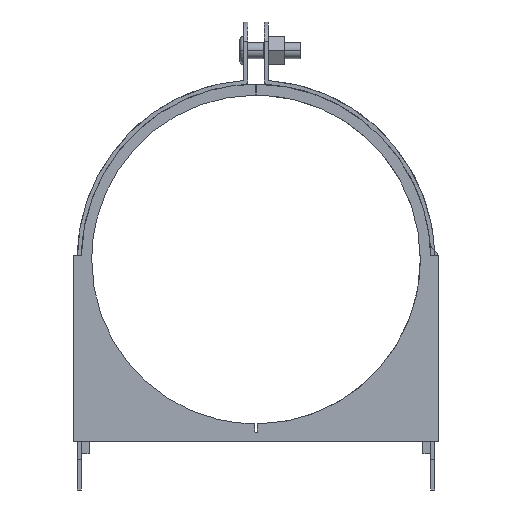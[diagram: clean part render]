
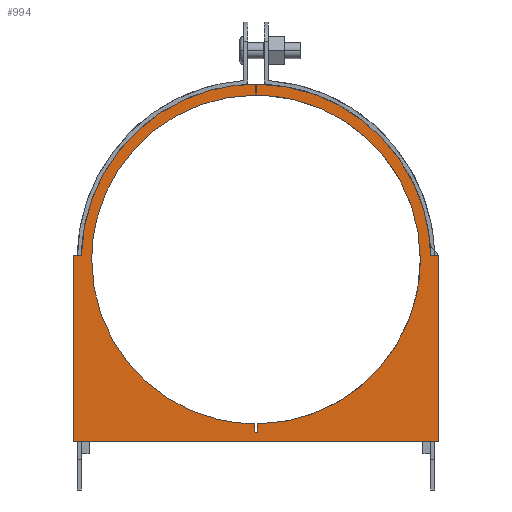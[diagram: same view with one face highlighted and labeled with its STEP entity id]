
A CAD part, front view. The second image highlights one B-rep face of the part: STEP entity #994.
In plain terms, the highlighted planar face has unit normal (0, -1, 0).
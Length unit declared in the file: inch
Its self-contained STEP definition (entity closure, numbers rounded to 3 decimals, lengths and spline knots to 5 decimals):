
#994=ADVANCED_FACE('',(#1929),#1930,.T.);
#1929=FACE_OUTER_BOUND('',#3800,.T.);
#1930=PLANE('',#3801);
#3800=EDGE_LOOP('',(#5203,#5204,#5205,#5206,#5207,#5208,#5209,#5210,#5211,#5212,#5213,#5214,#5215,#5216,#5217,#5218,#5219));
#3801=AXIS2_PLACEMENT_3D('',#5220,#5221,#5222);
#5203=ORIENTED_EDGE('',*,*,#5460,.F.);
#5204=ORIENTED_EDGE('',*,*,#5507,.F.);
#5205=ORIENTED_EDGE('',*,*,#5525,.F.);
#5206=ORIENTED_EDGE('',*,*,#5377,.F.);
#5207=ORIENTED_EDGE('',*,*,#5498,.F.);
#5208=ORIENTED_EDGE('',*,*,#5368,.F.);
#5209=ORIENTED_EDGE('',*,*,#5631,.F.);
#5210=ORIENTED_EDGE('',*,*,#5316,.F.);
#5211=ORIENTED_EDGE('',*,*,#5407,.F.);
#5212=ORIENTED_EDGE('',*,*,#5467,.F.);
#5213=ORIENTED_EDGE('',*,*,#5342,.F.);
#5214=ORIENTED_EDGE('',*,*,#5615,.F.);
#5215=ORIENTED_EDGE('',*,*,#5586,.F.);
#5216=ORIENTED_EDGE('',*,*,#5637,.F.);
#5217=ORIENTED_EDGE('',*,*,#5562,.F.);
#5218=ORIENTED_EDGE('',*,*,#5272,.F.);
#5219=ORIENTED_EDGE('',*,*,#5396,.F.);
#5220=CARTESIAN_POINT('',(2.78492,-0.125,3.33464));
#5221=DIRECTION('',(0.0,-1.0,0.0));
#5222=DIRECTION('',(1.0,0.0,0.0));
#5272=EDGE_CURVE('',#5673,#5675,#5676,.T.);
#5316=EDGE_CURVE('',#5746,#5747,#5748,.T.);
#5342=EDGE_CURVE('',#5787,#5788,#5789,.T.);
#5368=EDGE_CURVE('',#5827,#5828,#5829,.T.);
#5377=EDGE_CURVE('',#5842,#5843,#5844,.T.);
#5396=EDGE_CURVE('',#5870,#5673,#5871,.T.);
#5407=EDGE_CURVE('',#5885,#5746,#5886,.T.);
#5460=EDGE_CURVE('',#5965,#5870,#5966,.T.);
#5467=EDGE_CURVE('',#5788,#5885,#5974,.T.);
#5498=EDGE_CURVE('',#5828,#5842,#6012,.T.);
#5507=EDGE_CURVE('',#6025,#5965,#6026,.T.);
#5525=EDGE_CURVE('',#5843,#6025,#6048,.T.);
#5562=EDGE_CURVE('',#5675,#6091,#6092,.T.);
#5586=EDGE_CURVE('',#6118,#6119,#6120,.T.);
#5615=EDGE_CURVE('',#6119,#5787,#6149,.T.);
#5631=EDGE_CURVE('',#5747,#5827,#6165,.T.);
#5637=EDGE_CURVE('',#6091,#6118,#6171,.T.);
#5673=VERTEX_POINT('',#6220);
#5675=VERTEX_POINT('',#6223);
#5676=LINE('',#6224,#6225);
#5746=VERTEX_POINT('',#6354);
#5747=VERTEX_POINT('',#6355);
#5748=LINE('',#6356,#6357);
#5787=VERTEX_POINT('',#6442);
#5788=VERTEX_POINT('',#6443);
#5789=B_SPLINE_CURVE_WITH_KNOTS('',3,(#6444,#6445,#6446,#6447),.UNSPECIFIED.,.F.,.F.,(4,4),(0.0,1.0),.UNSPECIFIED.);
#5827=VERTEX_POINT('',#6518);
#5828=VERTEX_POINT('',#6519);
#5829=LINE('',#6520,#6521);
#5842=VERTEX_POINT('',#6540);
#5843=VERTEX_POINT('',#6541);
#5844=B_SPLINE_CURVE_WITH_KNOTS('',3,(#6542,#6543,#6544,#6545),.UNSPECIFIED.,.F.,.F.,(4,4),(0.0,1.0),.UNSPECIFIED.);
#5870=VERTEX_POINT('',#6589);
#5871=LINE('',#6590,#6591);
#5885=VERTEX_POINT('',#6623);
#5886=LINE('',#6624,#6625);
#5965=VERTEX_POINT('',#6773);
#5966=LINE('',#6774,#6775);
#5974=B_SPLINE_CURVE_WITH_KNOTS('',3,(#6785,#6786,#6787,#6788),.UNSPECIFIED.,.F.,.F.,(4,4),(0.0,1.0),.UNSPECIFIED.);
#6012=B_SPLINE_CURVE_WITH_KNOTS('',3,(#6911,#6912,#6913,#6914),.UNSPECIFIED.,.F.,.F.,(4,4),(0.0,1.0),.UNSPECIFIED.);
#6025=VERTEX_POINT('',#6941);
#6026=B_SPLINE_CURVE_WITH_KNOTS('',3,(#6942,#6943,#6944,#6945),.UNSPECIFIED.,.F.,.F.,(4,4),(0.0,1.0),.UNSPECIFIED.);
#6048=LINE('',#6991,#6992);
#6091=VERTEX_POINT('',#7060);
#6092=LINE('',#7061,#7062);
#6118=VERTEX_POINT('',#7099);
#6119=VERTEX_POINT('',#7100);
#6120=B_SPLINE_CURVE_WITH_KNOTS('',3,(#7101,#7102,#7103,#7104),.UNSPECIFIED.,.F.,.F.,(4,4),(0.0,1.0),.UNSPECIFIED.);
#6149=LINE('',#7154,#7155);
#6165=LINE('',#7173,#7174);
#6171=LINE('',#7180,#7181);
#6220=CARTESIAN_POINT('',(5.63127,-0.125,0.75));
#6223=CARTESIAN_POINT('',(-0.06169,-0.125,0.75));
#6224=CARTESIAN_POINT('',(5.63127,-0.125,0.75));
#6225=VECTOR('',#7200,1.0);
#6354=CARTESIAN_POINT('',(2.77032,-0.125,0.90242));
#6355=CARTESIAN_POINT('',(2.78521,-0.125,0.89796));
#6356=CARTESIAN_POINT('',(2.77032,-0.125,0.90242));
#6357=VECTOR('',#7227,1.0);
#6442=CARTESIAN_POINT('',(2.77946,-0.125,6.14998));
#6443=CARTESIAN_POINT('',(0.22494,-0.125,3.58982));
#6444=CARTESIAN_POINT('',(2.77946,-0.125,6.14998));
#6445=CARTESIAN_POINT('',(1.3682,-0.125,6.14694));
#6446=CARTESIAN_POINT('',(0.22494,-0.125,5.00179));
#6447=CARTESIAN_POINT('',(0.22494,-0.125,3.58982));
#6518=CARTESIAN_POINT('',(2.80163,-0.125,0.90242));
#6519=CARTESIAN_POINT('',(2.81299,-0.125,1.02985));
#6520=CARTESIAN_POINT('',(2.80163,-0.125,0.90242));
#6521=VECTOR('',#7250,1.0);
#6540=CARTESIAN_POINT('',(5.34493,-0.125,3.58982));
#6541=CARTESIAN_POINT('',(2.79103,-0.125,6.14998));
#6542=CARTESIAN_POINT('',(5.34493,-0.125,3.58982));
#6543=CARTESIAN_POINT('',(5.34493,-0.125,5.00163));
#6544=CARTESIAN_POINT('',(4.20208,-0.125,6.1467));
#6545=CARTESIAN_POINT('',(2.79103,-0.125,6.14998));
#6589=CARTESIAN_POINT('',(5.63127,-0.125,3.64994));
#6590=CARTESIAN_POINT('',(5.63127,-0.125,3.64994));
#6591=VECTOR('',#7266,1.0);
#6623=CARTESIAN_POINT('',(2.75611,-0.125,1.02986));
#6624=CARTESIAN_POINT('',(2.75611,-0.125,1.02986));
#6625=VECTOR('',#7270,1.);
#6773=CARTESIAN_POINT('',(5.50623,-0.125,3.65019));
#6774=CARTESIAN_POINT('',(5.50623,-0.125,3.65019));
#6775=VECTOR('',#7289,1.0);
#6785=CARTESIAN_POINT('',(0.22494,-0.125,3.58982));
#6786=CARTESIAN_POINT('',(0.22494,-0.125,2.18561));
#6787=CARTESIAN_POINT('',(1.35555,-0.125,1.04533));
#6788=CARTESIAN_POINT('',(2.75611,-0.125,1.02986));
#6911=CARTESIAN_POINT('',(2.81299,-0.125,1.02985));
#6912=CARTESIAN_POINT('',(4.21394,-0.125,1.04486));
#6913=CARTESIAN_POINT('',(5.34493,-0.125,2.18532));
#6914=CARTESIAN_POINT('',(5.34493,-0.125,3.58982));
#6941=CARTESIAN_POINT('',(2.79081,-0.125,6.32094));
#6942=CARTESIAN_POINT('',(2.79081,-0.125,6.32094));
#6943=CARTESIAN_POINT('',(4.27183,-0.125,6.31801));
#6944=CARTESIAN_POINT('',(5.47492,-0.125,5.12457));
#6945=CARTESIAN_POINT('',(5.50623,-0.125,3.65019));
#6991=CARTESIAN_POINT('',(2.79103,-0.125,6.14998));
#6992=VECTOR('',#7316,1.0);
#7060=CARTESIAN_POINT('',(-0.06169,-0.125,3.64994));
#7061=CARTESIAN_POINT('',(-0.06169,-0.125,0.75));
#7062=VECTOR('',#7330,1.0);
#7099=CARTESIAN_POINT('',(0.06393,-0.125,3.65019));
#7100=CARTESIAN_POINT('',(2.77946,-0.125,6.32094));
#7101=CARTESIAN_POINT('',(0.06393,-0.125,3.65019));
#7102=CARTESIAN_POINT('',(0.09552,-0.125,5.12429));
#7103=CARTESIAN_POINT('',(1.2987,-0.125,6.31795));
#7104=CARTESIAN_POINT('',(2.77946,-0.125,6.32094));
#7154=CARTESIAN_POINT('',(2.77946,-0.125,6.32094));
#7155=VECTOR('',#7345,1.0);
#7173=CARTESIAN_POINT('',(2.78521,-0.125,0.89796));
#7174=VECTOR('',#7348,1.0);
#7180=CARTESIAN_POINT('',(-0.06169,-0.125,3.64994));
#7181=VECTOR('',#7349,1.);
#7200=DIRECTION('',(-1.0,0.0,0.0));
#7227=DIRECTION('',(0.958,0.0,-0.287));
#7250=DIRECTION('',(0.089,0.0,0.996));
#7266=DIRECTION('',(0.0,0.0,-1.0));
#7270=DIRECTION('',(0.111,0.0,-0.994));
#7289=DIRECTION('',(1.,0.0,-0.002));
#7316=DIRECTION('',(-0.001,0.0,1.));
#7330=DIRECTION('',(0.0,0.0,1.0));
#7345=DIRECTION('',(0.0,0.0,-1.0));
#7348=DIRECTION('',(0.965,0.0,0.262));
#7349=DIRECTION('',(1.,0.0,0.002));
